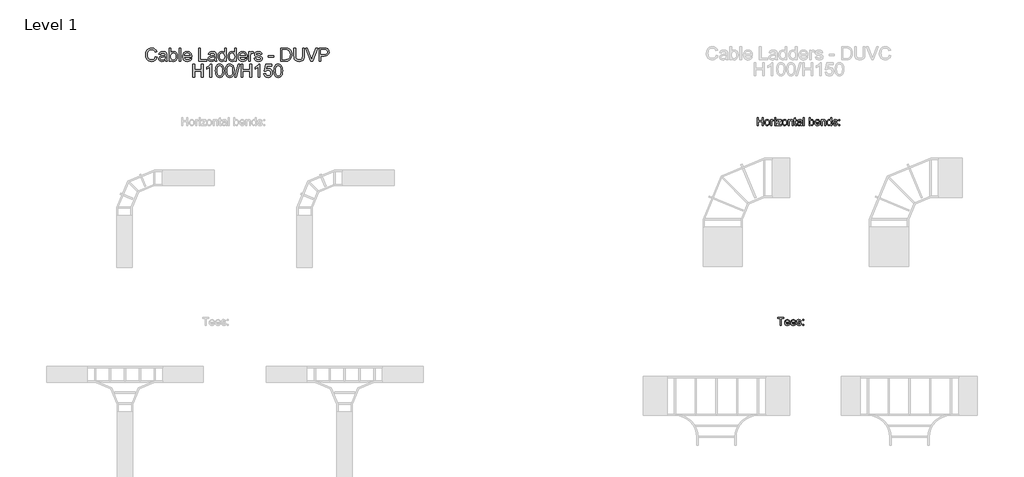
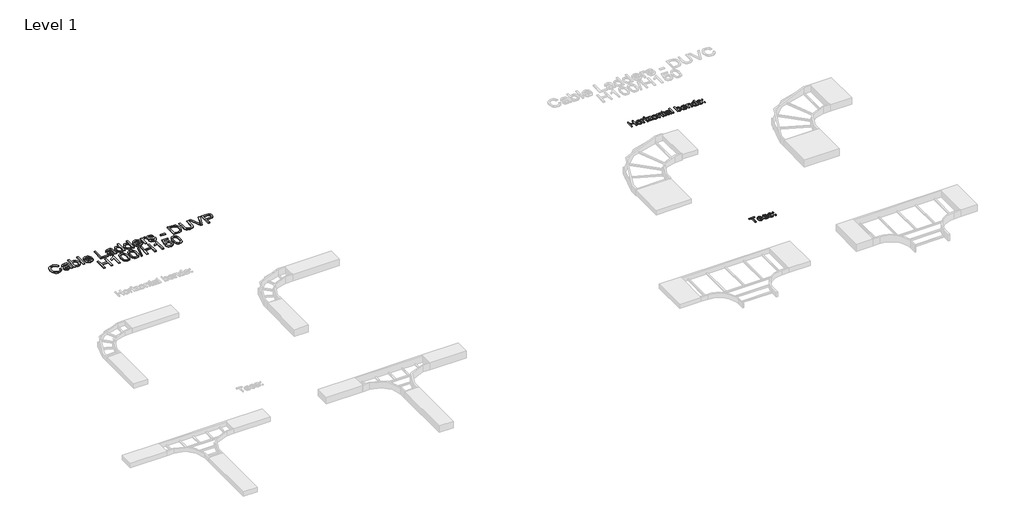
# One storey, part 101 of 106: 3 proxies.
"""IFC4 building model written with IfcOpenShell, lengths in millimetres."""

from ifc_helpers import new_model, si_unit, origin, origin_with_axes, place, context, project, spatial, polyline, outline, extrude, element, save

model = new_model("IFC4")

# Units and contexts
model_context = context("Model", 3, world=origin())
ifc_project = project(units=[si_unit("LENGTHUNIT", "METRE", prefix="MILLI")], contexts=[model_context])

# Site, building, storey
site = spatial("IfcSite", under=ifc_project)
building = spatial("IfcBuilding", under=site)
storey = spatial("IfcBuildingStorey", under=building, Name="Level 1", Elevation=0.0)

# Proxies
placement = place(None, origin())
element("IfcBuildingElementProxy", 1, Name="150mm Arial 2", ObjectType="150mm Arial 2", at=placement, inside=storey, context=model_context, shape_type="SweptSolid", body=[
    extrude(outline(polyline([(142665.8833156, 70274.2713912), (142665.8833156, 70424.9558564), (142684.7188737, 70424.9558564), (142684.7188737, 70363.7402924), (142764.7699959, 70363.7402924), (142764.7699959, 70424.9558564), (142783.605554, 70424.9558564), (142783.605554, 70274.2713912), (142764.7699959, 70274.2713912), (142764.7699959, 70344.9047343), (142684.7188737, 70344.9047343), (142684.7188737, 70274.2713912), (142665.8833156, 70274.2713912)])), origin_with_axes(), (0.0, 0.0, 1.0), 15.0),
    extrude(outline(polyline([(142809.5044465, 70329.6008433), (142813.5787396, 70356.281485), (142825.8016189, 70375.0342697), (142840.9031748, 70384.2221225), (142858.9845748, 70387.2847401), (142878.7720277, 70383.5553364), (142894.5771579, 70372.3671252), (142904.9376346, 70354.6030234), (142908.3911268, 70331.1459476), (142906.8644165, 70312.1172514), (142902.2842857, 70297.6318979), (142894.7840915, 70286.7839775), (142884.4971912, 70278.667581), (142872.2789104, 70273.6046051), (142858.9845748, 70271.9169464), (142838.9579987, 70275.6325546), (142823.1712626, 70286.779379), (142812.9211505, 70304.9159614), (142809.5044465, 70329.6008433)]), holes=[polyline([(142828.3400046, 70329.6376315), (142830.5197055, 70312.5908995), (142837.0588079, 70300.4461951), (142846.8996513, 70293.1759272), (142858.9845748, 70290.7525046), (142871.0143161, 70293.1897228), (142880.8367654, 70300.5013774), (142887.3758678, 70312.8070302), (142889.5555686, 70330.2262427), (142887.3620722, 70346.7763339), (142880.7815831, 70358.7554914), (142870.9453382, 70366.0257593), (142858.9845748, 70368.449182), (142846.8996513, 70366.0349564), (142837.0588079, 70358.7922796), (142830.5197055, 70346.6751664), (142828.3400046, 70329.6376315)])]), origin_with_axes(), (0.0, 0.0, 1.0), 15.0),
    extrude(outline(polyline([(142929.5811297, 70274.2713912), (142929.5811297, 70384.9302953), (142946.0622431, 70384.9302953), (142946.0622431, 70368.5595466), (142957.7608906, 70383.6427084), (142969.5331144, 70387.2847401), (142988.4422489, 70381.4722046), (142982.1514668, 70364.586421), (142968.907715, 70368.449182), (142958.2575312, 70364.7335738), (142951.4701084, 70354.4328779), (142948.4166879, 70332.4335346), (142948.4166879, 70274.2713912), (142929.5811297, 70274.2713912)])), origin_with_axes(), (0.0, 0.0, 1.0), 15.0),
    extrude(outline(polyline([(143000.2144728, 70406.1202983), (143000.2144728, 70424.9558564), (143019.0500309, 70424.9558564), (143019.0500309, 70406.1202983), (143000.2144728, 70406.1202983)])), origin_with_axes(), (0.0, 0.0, 1.0), 15.0),
    extrude(outline(polyline([(143000.2144728, 70274.2713912), (143000.2144728, 70384.9302953), (143019.0500309, 70384.9302953), (143019.0500309, 70274.2713912), (143000.2144728, 70274.2713912)])), origin_with_axes(), (0.0, 0.0, 1.0), 15.0),
    extrude(outline(polyline([(143035.5311443, 70274.2713912), (143035.5311443, 70292.0033034), (143100.5358929, 70366.0947372), (143081.2956645, 70366.0947372), (143040.2400339, 70366.0947372), (143040.2400339, 70384.9302953), (143127.3544903, 70384.9302953), (143127.3544903, 70368.9274285), (143069.7073817, 70303.186916), (143060.8782138, 70293.1069493), (143082.6568279, 70293.1069493), (143129.7089351, 70293.1069493), (143129.7089351, 70274.2713912), (143035.5311443, 70274.2713912)])), origin_with_axes(), (0.0, 0.0, 1.0), 15.0),
    extrude(outline(polyline([(143143.8356037, 70329.6008433), (143147.9098968, 70356.281485), (143160.1327761, 70375.0342697), (143175.234332, 70384.2221225), (143193.3157321, 70387.2847401), (143213.1031849, 70383.5553364), (143228.9083151, 70372.3671252), (143239.2687918, 70354.6030234), (143242.722284, 70331.1459476), (143241.1955737, 70312.1172514), (143236.6154429, 70297.6318979), (143229.1152487, 70286.7839775), (143218.8283484, 70278.667581), (143206.6100677, 70273.6046051), (143193.3157321, 70271.9169464), (143173.2891559, 70275.6325546), (143157.5024198, 70286.779379), (143147.2523077, 70304.9159614), (143143.8356037, 70329.6008433)]), holes=[polyline([(143162.6711619, 70329.6376315), (143164.8508627, 70312.5908995), (143171.3899651, 70300.4461951), (143181.2308085, 70293.1759272), (143193.3157321, 70290.7525046), (143205.3454733, 70293.1897228), (143215.1679226, 70300.5013774), (143221.707025, 70312.8070302), (143223.8867259, 70330.2262427), (143221.6932295, 70346.7763339), (143215.1127403, 70358.7554914), (143205.2764954, 70366.0257593), (143193.3157321, 70368.449182), (143181.2308085, 70366.0349564), (143171.3899651, 70358.7922796), (143164.8508627, 70346.6751664), (143162.6711619, 70329.6376315)])]), origin_with_axes(), (0.0, 0.0, 1.0), 15.0),
    extrude(outline(polyline([(143263.9122869, 70274.2713912), (143263.9122869, 70384.9302953), (143282.7478451, 70384.9302953), (143282.7478451, 70369.4792515), (143297.1504252, 70382.833368), (143316.8137178, 70387.2847401), (143334.6008123, 70383.6978907), (143346.7409182, 70374.2801116), (143352.3879068, 70360.4293545), (143353.3811882, 70342.2191957), (143353.3811882, 70274.2713912), (143334.54563, 70274.2713912), (143334.54563, 70339.6808099), (143332.3751262, 70356.3458643), (143324.7047866, 70365.1566381), (143311.7737345, 70368.449182), (143300.7418732, 70366.6005749), (143291.3378897, 70361.0547538), (143284.8953562, 70350.3401907), (143282.7478451, 70332.9853576), (143282.7478451, 70274.2713912), (143263.9122869, 70274.2713912)])), origin_with_axes(), (0.0, 0.0, 1.0), 15.0),
    extrude(outline(polyline([(143419.3056417, 70289.9799524), (143421.6600865, 70273.7195682), (143407.5702061, 70271.9169464), (143391.7880685, 70275.0439434), (143383.9153938, 70283.2477119), (143381.6345254, 70304.6216558), (143381.6345254, 70366.0947372), (143367.5078568, 70366.0947372), (143367.5078568, 70384.9302953), (143381.6345254, 70384.9302953), (143381.6345254, 70411.8224692), (143400.4700835, 70422.8957172), (143400.4700835, 70384.9302953), (143419.3056417, 70384.9302953), (143419.3056417, 70366.0947372), (143400.4700835, 70366.0947372), (143400.4700835, 70305.1734788), (143401.4633649, 70295.4613941), (143404.6823324, 70292.0216975), (143411.1018732, 70290.7525046), (143419.3056417, 70289.9799524)])), origin_with_axes(), (0.0, 0.0, 1.0), 15.0),
    extrude(outline(polyline([(143508.7745429, 70288.3980598), (143490.5092019, 70275.6325546), (143470.3308744, 70271.9169464), (143454.5901236, 70274.1518295), (143442.9788481, 70280.8564789), (143435.8189448, 70291.0376131), (143433.4323103, 70303.7019508), (143437.0375539, 70318.6011716), (143446.5105152, 70329.4169023), (143459.6990848, 70335.5973198), (143475.9962572, 70338.4300111), (143508.6641783, 70344.9047343), (143508.7745429, 70349.098589), (143507.4777589, 70357.5046926), (143503.5874068, 70363.0045284), (143494.8869976, 70367.0880186), (143482.7652859, 70368.449182), (143463.7089985, 70364.8255443), (143454.6223132, 70351.9680686), (143435.7867551, 70354.3225133), (143443.9353413, 70372.7166131), (143460.3428783, 70383.4955556), (143485.193307, 70387.2847401), (143508.0203848, 70383.9370139), (143520.9146488, 70375.5309104), (143526.6903961, 70362.747011), (143527.6101011, 70346.2658976), (143527.6101011, 70322.8318145), (143528.5665943, 70290.1087111), (143532.3189906, 70274.2713912), (143513.4834325, 70274.2713912), (143508.7745429, 70288.3980598)]), holes=[polyline([(143508.7745429, 70326.0691761), (143478.3874901, 70320.2934288), (143462.1822882, 70317.2400082), (143454.8430424, 70312.2736013), (143452.2678685, 70305.026326), (143457.8780689, 70294.8359947), (143474.3407882, 70290.7525046), (143493.3970755, 70295.259059), (143505.6843342, 70306.1667602), (143508.6641783, 70320.7348872), (143508.7745429, 70326.0691761)])]), origin_with_axes(), (0.0, 0.0, 1.0), 15.0),
    extrude(outline(polyline([(143553.5089935, 70274.2713912), (143553.5089935, 70424.9558564), (143572.3445517, 70424.9558564), (143572.3445517, 70274.2713912), (143553.5089935, 70274.2713912)])), origin_with_axes(), (0.0, 0.0, 1.0), 15.0),
    extrude(outline(polyline([(143678.2945663, 70274.2713912), (143659.4590082, 70274.2713912), (143659.4590082, 70424.9558564), (143678.2945663, 70424.9558564), (143678.2945663, 70369.0745813), (143691.4831358, 70382.7322004), (143707.8722787, 70387.2847401), (143726.7446251, 70383.1828559), (143741.3863285, 70371.6497553), (143750.3810433, 70353.715508), (143753.6367989, 70331.2563122), (143750.2660801, 70306.1115779), (143740.1539238, 70287.4047784), (143725.3144838, 70275.7889044), (143707.7619141, 70271.9169464), (143691.0140863, 70276.9109445), (143678.2945663, 70291.8929388), (143678.2945663, 70274.2713912)]), holes=[polyline([(143678.2945663, 70330.3733955), (143679.5821533, 70314.6648343), (143683.4449142, 70304.0330446), (143693.3133488, 70294.0726396), (143706.1432333, 70290.7525046), (143717.0141463, 70293.1989198), (143726.3031667, 70300.5381656), (143732.6767222, 70312.7242567), (143734.8012408, 70329.7112079), (143732.7640942, 70346.9464793), (143726.6526546, 70358.9946147), (143717.6533413, 70366.0855401), (143706.9525737, 70368.449182), (143696.0816608, 70366.0027667), (143686.7926404, 70358.6635209), (143680.4190848, 70346.698159), (143678.2945663, 70330.3733955)])]), origin_with_axes(), (0.0, 0.0, 1.0), 15.0),
    extrude(outline(polyline([(143852.30275, 70307.233618), (143870.7704262, 70304.8791732), (143864.1163606, 70290.9640367), (143853.4983665, 70280.5621733), (143839.1555672, 70274.0782531), (143821.327086, 70271.9169464), (143799.2265752, 70275.6463501), (143782.2212299, 70286.8345613), (143771.3779081, 70304.755013), (143767.7634675, 70328.6811383), (143771.4146963, 70353.4120054), (143782.3683827, 70371.9072727), (143799.1438017, 70383.4403733), (143820.2602282, 70387.2847401), (143840.7190657, 70383.4495703), (143857.0668219, 70371.9440609), (143867.7859835, 70353.4855818), (143871.3590374, 70328.7915029), (143871.2486728, 70323.7147313), (143786.5990257, 70323.7147313), (143789.8593799, 70309.6156539), (143797.4331504, 70299.2505787), (143808.3638442, 70292.8770231), (143821.694968, 70290.7525046), (143840.1626442, 70294.6888419), (143852.30275, 70307.233618)]), holes=[polyline([(143786.5990257, 70342.5502895), (143852.5234792, 70342.5502895), (143849.9758964, 70352.5014975), (143844.9818983, 70359.6200141), (143834.0006208, 70366.24189), (143820.1866518, 70368.449182), (143807.4901245, 70366.6879469), (143796.991692, 70361.4042417), (143789.693833, 70353.1682836), (143786.5990257, 70342.5502895)])]), origin_with_axes(), (0.0, 0.0, 1.0), 15.0),
    extrude(outline(polyline([(143890.1945955, 70274.2713912), (143890.1945955, 70384.9302953), (143909.0301537, 70384.9302953), (143909.0301537, 70369.4792515), (143923.4327338, 70382.833368), (143943.0960264, 70387.2847401), (143960.8831209, 70383.6978907), (143973.0232267, 70374.2801116), (143978.6702154, 70360.4293545), (143979.6634968, 70342.2191957), (143979.6634968, 70274.2713912), (143960.8279386, 70274.2713912), (143960.8279386, 70339.6808099), (143958.6574348, 70356.3458643), (143950.9870952, 70365.1566381), (143938.0560431, 70368.449182), (143927.0241818, 70366.6005749), (143917.6201983, 70361.0547538), (143911.1776648, 70350.3401907), (143909.0301537, 70332.9853576), (143909.0301537, 70274.2713912), (143890.1945955, 70274.2713912)])), origin_with_axes(), (0.0, 0.0, 1.0), 15.0),
    extrude(outline(polyline([(144073.8412875, 70274.2713912), (144073.8412875, 70292.0400916), (144061.3792849, 70276.9477327), (144044.1532105, 70271.9169464), (144031.9763165, 70273.7379623), (144020.829492, 70279.2010099), (144011.3933188, 70287.9244117), (144004.3483786, 70299.5264902), (143999.9613858, 70313.5381956), (143998.4990549, 70329.4904787), (144003.8885261, 70359.4728613), (144010.6207666, 70371.3646468), (144020.0385457, 70380.1110412), (144031.429092, 70385.4913154), (144044.0796341, 70387.2847401), (144061.4436643, 70382.1527863), (144073.8412875, 70368.8170639), (144073.8412875, 70424.9558564), (144092.6768457, 70424.9558564), (144092.6768457, 70274.2713912), (144073.8412875, 70274.2713912)]), holes=[polyline([(144017.3346131, 70329.5640551), (144019.4591316, 70312.5265202), (144025.8326871, 70300.4094069), (144035.0941164, 70293.1667302), (144045.8822559, 70290.7525046), (144056.6657969, 70293.0563656), (144065.6927013, 70299.9679485), (144071.804141, 70311.6160122), (144073.8412875, 70328.1293153), (144071.7673528, 70346.1831242), (144065.5455485, 70358.7003091), (144056.2887178, 70366.0119637), (144045.1097037, 70368.449182), (144034.2111996, 70366.1085328), (144025.2808642, 70359.0865852), (144019.3211758, 70347.0246543), (144017.3346131, 70329.5640551)])]), origin_with_axes(), (0.0, 0.0, 1.0), 15.0),
    extrude(outline(polyline([(144113.8668486, 70307.233618), (144132.7024067, 70309.5880627), (144135.6730539, 70301.531447), (144141.42121, 70295.6085469), (144161.3972024, 70290.7525046), (144180.6006425, 70295.2038767), (144186.8546364, 70305.6517254), (144185.2819409, 70310.4525854), (144180.5638543, 70314.1130113), (144161.1764732, 70319.4840884), (144132.8127713, 70328.6995324), (144120.4335422, 70339.4600807), (144116.2212934, 70354.6536071), (144119.6058077, 70368.6883052), (144128.8396458, 70379.4120654), (144140.8142047, 70384.9854776), (144157.0194066, 70387.2847401), (144179.9384549, 70383.5875261), (144194.5065819, 70373.5811358), (144200.9813051, 70356.6769581), (144182.1457469, 70354.3225133), (144175.0640185, 70364.7151797), (144158.4909346, 70368.449182), (144140.4647168, 70364.8807266), (144135.0568515, 70356.5665935), (144137.3009317, 70351.0851518), (144144.3274778, 70346.9280852), (144160.5510738, 70342.9181715), (144188.1974057, 70334.0522154), (144201.0364873, 70324.0090369), (144205.6901946, 70307.6382881), (144200.227147, 70289.6120704), (144184.4634035, 70276.5338655), (144161.139685, 70271.9169464), (144142.147777, 70274.1426325), (144128.2878228, 70280.8196907), (144119.0355906, 70291.8745447), (144113.8668486, 70307.233618)])), origin_with_axes(), (0.0, 0.0, 1.0), 15.0),
    extrude(outline(polyline([(144231.589087, 70366.0947372), (144231.589087, 70384.9302953), (144250.4246452, 70384.9302953), (144250.4246452, 70366.0947372), (144231.589087, 70366.0947372)])), origin_with_axes(), (0.0, 0.0, 1.0), 15.0),
    extrude(outline(polyline([(144231.589087, 70274.2713912), (144231.589087, 70293.1069493), (144250.4246452, 70293.1069493), (144250.4246452, 70274.2713912), (144231.589087, 70274.2713912)])), origin_with_axes(), (0.0, 0.0, 1.0), 15.0),
])
element("IfcBuildingElementProxy", 2, Name="150mm Arial 2", ObjectType="150mm Arial 2", at=placement, inside=storey, context=model_context, shape_type="SweptSolid", body=[
    extrude(outline(polyline([(143111.5611219, 66447.8476348), (143111.5611219, 66579.6965419), (143062.1177817, 66579.6965419), (143062.1177817, 66598.5321), (143179.8400202, 66598.5321), (143179.8400202, 66579.6965419), (143130.39668, 66579.6965419), (143130.39668, 66447.8476348), (143111.5611219, 66447.8476348)])), origin_with_axes(), (0.0, 0.0, 1.0), 15.0),
    extrude(outline(polyline([(143276.1515265, 66480.8098615), (143294.6192027, 66478.4554168), (143287.9651371, 66464.5402803), (143277.347143, 66454.1384169), (143263.0043437, 66447.6544967), (143245.1758625, 66445.49319), (143223.0753517, 66449.2225937), (143206.0700064, 66460.4108049), (143195.2266846, 66478.3312566), (143191.612244, 66502.2573819), (143195.2634728, 66526.988249), (143206.2171592, 66545.4835163), (143222.9925782, 66557.0166168), (143244.1090047, 66560.8609837), (143264.5678422, 66557.0258139), (143280.9155984, 66545.5203045), (143291.63476, 66527.0618254), (143295.2078139, 66502.3677465), (143295.0974493, 66497.2909749), (143210.4478022, 66497.2909749), (143213.7081564, 66483.1918975), (143221.2819269, 66472.8268223), (143232.2126207, 66466.4532667), (143245.5437445, 66464.3287482), (143264.0114207, 66468.2650855), (143276.1515265, 66480.8098615)]), holes=[polyline([(143210.4478022, 66516.1265331), (143276.3722557, 66516.1265331), (143273.8246729, 66526.0777411), (143268.8306748, 66533.1962577), (143257.8493973, 66539.8181336), (143244.0354283, 66542.0254255), (143231.338901, 66540.2641905), (143220.8404686, 66534.9804853), (143213.5426095, 66526.7445272), (143210.4478022, 66516.1265331)])]), origin_with_axes(), (0.0, 0.0, 1.0), 15.0),
    extrude(outline(polyline([(143391.5193202, 66480.8098615), (143409.9869964, 66478.4554168), (143403.3329308, 66464.5402803), (143392.7149367, 66454.1384169), (143378.3721374, 66447.6544967), (143360.5436562, 66445.49319), (143338.4431454, 66449.2225937), (143321.4378001, 66460.4108049), (143310.5944783, 66478.3312566), (143306.9800377, 66502.2573819), (143310.6312665, 66526.988249), (143321.5849529, 66545.4835163), (143338.3603719, 66557.0166168), (143359.4767984, 66560.8609837), (143379.9356359, 66557.0258139), (143396.2833921, 66545.5203045), (143407.0025537, 66527.0618254), (143410.5756076, 66502.3677465), (143410.465243, 66497.2909749), (143325.8155959, 66497.2909749), (143329.0759501, 66483.1918975), (143336.6497206, 66472.8268223), (143347.5804144, 66466.4532667), (143360.9115382, 66464.3287482), (143379.3792144, 66468.2650855), (143391.5193202, 66480.8098615)]), holes=[polyline([(143325.8155959, 66516.1265331), (143391.7400494, 66516.1265331), (143389.1924666, 66526.0777411), (143384.1984685, 66533.1962577), (143373.217191, 66539.8181336), (143359.403222, 66542.0254255), (143346.7066947, 66540.2641905), (143336.2082622, 66534.9804853), (143328.9104032, 66526.7445272), (143325.8155959, 66516.1265331)])]), origin_with_axes(), (0.0, 0.0, 1.0), 15.0),
    extrude(outline(polyline([(143422.3478314, 66480.8098615), (143441.1833896, 66483.1643063), (143444.1540367, 66475.1076906), (143449.9021929, 66469.1847905), (143469.8781852, 66464.3287482), (143489.0816253, 66468.7801203), (143495.3356193, 66479.227969), (143493.7629237, 66484.028829), (143489.0448371, 66487.6892549), (143469.657456, 66493.060332), (143441.2937542, 66502.275776), (143428.914525, 66513.0363243), (143424.7022762, 66528.2298507), (143428.0867905, 66542.2645488), (143437.3206286, 66552.988309), (143449.2951876, 66558.5617212), (143465.5003894, 66560.8609837), (143488.4194377, 66557.1637696), (143502.9875648, 66547.1573794), (143509.4622879, 66530.2532017), (143490.6267297, 66527.8987569), (143483.5450013, 66538.2914233), (143466.9719174, 66542.0254255), (143448.9456997, 66538.4569702), (143443.5378343, 66530.1428371), (143445.7819145, 66524.6613954), (143452.8084606, 66520.5043288), (143469.0320566, 66516.4944151), (143496.6783885, 66507.628459), (143509.5174702, 66497.5852805), (143514.1711774, 66481.2145317), (143508.7081298, 66463.188314), (143492.9443863, 66450.110109), (143469.6206678, 66445.49319), (143450.6287598, 66447.7188761), (143436.7688056, 66454.3959343), (143427.5165734, 66465.4507882), (143422.3478314, 66480.8098615)])), origin_with_axes(), (0.0, 0.0, 1.0), 15.0),
    extrude(outline(polyline([(143540.0700699, 66539.6709808), (143540.0700699, 66558.5065389), (143558.905628, 66558.5065389), (143558.905628, 66539.6709808), (143540.0700699, 66539.6709808)])), origin_with_axes(), (0.0, 0.0, 1.0), 15.0),
    extrude(outline(polyline([(143540.0700699, 66447.8476348), (143540.0700699, 66466.6831929), (143558.905628, 66466.6831929), (143558.905628, 66447.8476348), (143540.0700699, 66447.8476348)])), origin_with_axes(), (0.0, 0.0, 1.0), 15.0),
])
element("IfcBuildingElementProxy", 3, Name="250mm Arial 3", ObjectType="250mm Arial 3", at=placement, inside=storey, context=model_context, shape_type="SweptSolid", body=[
    extrude(outline(polyline([(131161.7184813, 71592.4106539), (131193.1110783, 71584.31725), (131178.6257247, 71547.7359841), (131155.8936831, 71521.01089), (131126.0339278, 71504.6631338), (131090.1654333, 71499.2138818), (131053.75278, 71503.3372258), (131024.8357223, 71515.7072579), (131002.6708321, 71535.8947824), (130986.5146811, 71563.4706036), (130976.6508451, 71595.8902044), (130973.3628998, 71630.6090677), (130977.0800408, 71667.2286547), (130988.2314638, 71698.8511778), (131006.2346889, 71724.472626), (131030.5072364, 71743.0889877), (131059.2940025, 71754.4243517), (131090.8398836, 71758.2028064), (131125.2598428, 71753.3130415), (131153.7170479, 71738.643747), (131175.3224509, 71715.0992993), (131189.1870036, 71683.584075), (131157.7944067, 71676.1038078), (131146.911231, 71698.9967978), (131132.0426671, 71714.7007605), (131113.0047738, 71723.7828472), (131089.6136103, 71726.8102095), (131062.6509257, 71723.4532863), (131040.5013639, 71713.3825166), (131023.6937553, 71697.6555613), (131012.7569301, 71677.3300811), (131006.7558551, 71654.3527848), (131004.7554967, 71630.6703814), (131007.1237371, 71601.6690174), (131014.2284581, 71576.5917281), (131026.3379071, 71556.3965394), (131043.7203314, 71542.0414774), (131064.5593136, 71533.4652284), (131087.0384363, 71530.6064787), (131113.2423643, 71534.4998965), (131135.0776935, 71546.1801498), (131151.5634054, 71565.5246114), (131161.7184813, 71592.4106539)])), origin_with_axes(), (0.0, 0.0, 1.0), 15.0),
    extrude(outline(polyline([(131350.0740629, 71526.6824041), (131335.0752074, 71513.8218627), (131319.6318278, 71505.406562), (131303.3913705, 71500.7620518), (131286.001282, 71499.2138818), (131259.7666973, 71502.938687), (131240.4145715, 71514.1131026), (131228.4813992, 71531.0816596), (131224.5036752, 71552.1888891), (131226.00586, 71565.2027147), (131230.5124144, 71577.0209238), (131246.3006834, 71595.0471415), (131268.2816326, 71605.3478374), (131295.4435866, 71610.0689897), (131349.8901219, 71620.8601949), (131350.0740629, 71627.8499528), (131347.9127561, 71641.8601254), (131341.428836, 71651.0265185), (131326.928154, 71657.8323354), (131306.7253011, 71660.100941), (131288.024633, 71658.591092), (131274.9648222, 71654.0615449), (131266.0590122, 71645.6845653), (131259.8203467, 71632.6324187), (131228.4277498, 71636.5564933), (131233.8770018, 71653.7243198), (131242.0087268, 71667.2133262), (131253.5816812, 71677.5293505), (131269.3546218, 71685.1782303), (131288.6454339, 71689.914711), (131310.772003, 71691.4935379), (131331.9941956, 71690.098652), (131348.8171327, 71685.9139943), (131361.5013973, 71679.6216794), (131370.3075726, 71671.9038217), (131379.9338181, 71650.5973228), (131381.4666598, 71623.1288005), (131381.4666598, 71584.0719953), (131383.0608151, 71529.5334895), (131389.314809, 71503.1379564), (131357.9222121, 71503.1379564), (131350.0740629, 71526.6824041)]), holes=[polyline([(131350.0740629, 71589.4675979), (131299.4289749, 71579.8413524), (131272.420305, 71574.7523181), (131260.1882287, 71566.4749732), (131255.8962721, 71554.3961811), (131258.2338556, 71545.0611754), (131265.2466061, 71537.4122956), (131276.7812395, 71532.3079329), (131292.6844716, 71530.6064787), (131309.5457297, 71532.4842097), (131324.4449505, 71538.1174028), (131336.5237427, 71546.4177403), (131344.9237149, 71556.2969047), (131348.6485201, 71566.4749732), (131349.8901219, 71580.5771164), (131350.0740629, 71589.4675979)])]), origin_with_axes(), (0.0, 0.0, 1.0), 15.0),
    extrude(outline(polyline([(131456.0240775, 71503.1379564), (131424.6314806, 71503.1379564), (131424.6314806, 71754.2787318), (131456.0240775, 71754.2787318), (131456.0240775, 71661.1432733), (131466.347766, 71674.4215141), (131478.0050267, 71683.9059718), (131490.9958596, 71689.5966464), (131505.3202648, 71691.4935379), (131521.4917442, 71689.7844195), (131536.7741754, 71684.6570642), (131550.2938387, 71676.4333687), (131561.1770144, 71665.4352299), (131576.1682057, 71635.5448178), (131581.5944652, 71598.1128248), (131575.9766005, 71556.2049342), (131568.9542697, 71539.2746982), (131559.1230066, 71525.0269351), (131547.322042, 71513.7337243), (131534.3906067, 71505.6671451), (131520.3287006, 71500.8271976), (131505.1363238, 71499.2138818), (131490.3405698, 71501.2947143), (131477.2232774, 71507.5372119), (131465.7844467, 71517.9413746), (131456.0240775, 71532.5072023), (131456.0240775, 71503.1379564)]), holes=[polyline([(131456.0240775, 71596.6412968), (131458.1700558, 71570.4603615), (131464.6079907, 71552.7407121), (131481.0553816, 71536.140037), (131502.4385225, 71530.6064787), (131520.5567108, 71534.6838375), (131536.0384114, 71546.9159138), (131546.661004, 71567.2260656), (131550.2018682, 71595.5376509), (131546.806624, 71624.2631033), (131536.6208912, 71644.3433289), (131521.6220357, 71656.161538), (131503.7874232, 71660.100941), (131485.6692349, 71656.0235822), (131470.1875343, 71643.7915059), (131459.5649417, 71623.8492361), (131456.0240775, 71596.6412968)])]), origin_with_axes(), (0.0, 0.0, 1.0), 15.0),
    extrude(outline(polyline([(131616.9111367, 71503.1379564), (131616.9111367, 71754.2787318), (131648.3037336, 71754.2787318), (131648.3037336, 71503.1379564), (131616.9111367, 71503.1379564)])), origin_with_axes(), (0.0, 0.0, 1.0), 15.0),
    extrude(outline(polyline([(131824.5192093, 71558.075001), (131855.2986696, 71554.1509264), (131844.2085603, 71530.9590323), (131826.5119034, 71513.6225933), (131802.607238, 71502.8160596), (131772.8931027, 71499.2138818), (131753.4145174, 71500.7678), (131736.0589179, 71505.4295547), (131720.826304, 71513.1991458), (131707.7166758, 71524.0765733), (131697.1745574, 71537.759101), (131689.6444728, 71553.9439928), (131685.1264221, 71572.6312485), (131683.6204052, 71593.8208682), (131685.1417505, 71615.7290074), (131689.7057865, 71635.0389801), (131697.3125132, 71651.7507861), (131707.9619305, 71665.8644256), (131721.0370697, 71677.0771622), (131735.9209621, 71685.0862598), (131752.6136077, 71689.8917184), (131771.1150063, 71691.4935379), (131789.0205128, 71689.8955505), (131805.2130688, 71685.1015883), (131819.6926742, 71677.1116512), (131832.459329, 71665.9257393), (131842.8807362, 71651.8427566), (131850.3245984, 71635.1616074), (131854.7909158, 71615.8822916), (131856.2796882, 71594.0048092), (131856.0957472, 71585.5435233), (131715.0130021, 71585.5435233), (131720.4469257, 71562.0450609), (131733.0698767, 71544.7699355), (131751.2876996, 71534.1473429), (131773.5062393, 71530.6064787), (131790.2142133, 71532.2466193), (131804.2856996, 71537.1670409), (131815.7206983, 71545.6743121), (131824.5192093, 71558.075001)]), holes=[polyline([(131715.0130021, 71616.9361202), (131824.8870913, 71616.9361202), (131820.6411199, 71633.5214669), (131812.3177898, 71645.3856612), (131794.0156605, 71656.4221211), (131770.992379, 71660.100941), (131749.8315001, 71657.1655493), (131732.3341127, 71648.359374), (131720.1710142, 71634.632777), (131715.0130021, 71616.9361202)])]), origin_with_axes(), (0.0, 0.0, 1.0), 15.0),
    extrude(outline(polyline([(131989.6982251, 71503.1379564), (131989.6982251, 71754.2787318), (132021.0908221, 71754.2787318), (132021.0908221, 71534.5305533), (132146.6612098, 71534.5305533), (132146.6612098, 71503.1379564), (131989.6982251, 71503.1379564)])), origin_with_axes(), (0.0, 0.0, 1.0), 15.0),
    extrude(outline(polyline([(132295.7760451, 71526.6824041), (132280.7771896, 71513.8218627), (132265.33381, 71505.406562), (132249.0933528, 71500.7620518), (132231.7032643, 71499.2138818), (132205.4686795, 71502.938687), (132186.1165537, 71514.1131026), (132174.1833815, 71531.0816596), (132170.2056574, 71552.1888891), (132171.7078423, 71565.2027147), (132176.2143967, 71577.0209238), (132192.0026657, 71595.0471415), (132213.9836149, 71605.3478374), (132241.1455688, 71610.0689897), (132295.5921041, 71620.8601949), (132295.7760451, 71627.8499528), (132293.6147384, 71641.8601254), (132287.1308182, 71651.0265185), (132272.6301363, 71657.8323354), (132252.4272834, 71660.100941), (132233.7266153, 71658.591092), (132220.6668044, 71654.0615449), (132211.7609945, 71645.6845653), (132205.522329, 71632.6324187), (132174.1297321, 71636.5564933), (132179.5789841, 71653.7243198), (132187.710709, 71667.2133262), (132199.2836635, 71677.5293505), (132215.056604, 71685.1782303), (132234.3474161, 71689.914711), (132256.4739853, 71691.4935379), (132277.6961779, 71690.098652), (132294.519115, 71685.9139943), (132307.2033796, 71679.6216794), (132316.0095549, 71671.9038217), (132325.6358004, 71650.5973228), (132327.1686421, 71623.1288005), (132327.1686421, 71584.0719953), (132328.7627974, 71529.5334895), (132335.0167913, 71503.1379564), (132303.6241944, 71503.1379564), (132295.7760451, 71526.6824041)]), holes=[polyline([(132295.7760451, 71589.4675979), (132245.1309571, 71579.8413524), (132218.1222873, 71574.7523181), (132205.890211, 71566.4749732), (132201.5982544, 71554.3961811), (132203.9358379, 71545.0611754), (132210.9485884, 71537.4122956), (132222.4832218, 71532.3079329), (132238.3864539, 71530.6064787), (132255.247712, 71532.4842097), (132270.1469328, 71538.1174028), (132282.225725, 71546.4177403), (132290.6256972, 71556.2969047), (132294.3505024, 71566.4749732), (132295.5921041, 71580.5771164), (132295.7760451, 71589.4675979)])]), origin_with_axes(), (0.0, 0.0, 1.0), 15.0),
    extrude(outline(polyline([(132484.1316267, 71503.1379564), (132484.1316267, 71532.752457), (132474.7391395, 71518.0793303), (132463.3616223, 71507.5985256), (132449.9990753, 71501.3100427), (132434.6514983, 71499.2138818), (132414.3566749, 71502.2489082), (132395.7786342, 71511.3539876), (132380.0516789, 71525.8929906), (132368.3101118, 71545.229788), (132360.9984572, 71568.5826305), (132358.561239, 71595.1697689), (132360.806852, 71621.4273463), (132367.543691, 71645.1404065), (132378.7640919, 71664.960049), (132394.4603903, 71679.5373731), (132413.4446341, 71688.5044967), (132434.528871, 71691.4935379), (132449.8879443, 71689.3552238), (132463.4689213, 71682.9402815), (132474.980562, 71673.1071024), (132484.1316267, 71660.7140777), (132484.1316267, 71754.2787318), (132515.5242236, 71754.2787318), (132515.5242236, 71503.1379564), (132484.1316267, 71503.1379564)]), holes=[polyline([(132389.9538359, 71595.2923962), (132393.4947001, 71566.8965047), (132404.1172927, 71546.701316), (132419.5530081, 71534.630188), (132437.5332406, 71530.6064787), (132455.5058089, 71534.446247), (132470.5506497, 71545.965552), (132480.7363824, 71565.3789915), (132484.1316267, 71592.9011632), (132480.6750687, 71622.9908447), (132470.305395, 71643.8528196), (132454.8773438, 71656.0389106), (132436.2456536, 71660.100941), (132418.0814801, 71656.199859), (132403.1975877, 71644.496613), (132393.2647739, 71624.3933948), (132389.9538359, 71595.2923962)])]), origin_with_axes(), (0.0, 0.0, 1.0), 15.0),
    extrude(outline(polyline([(132676.4112828, 71503.1379564), (132676.4112828, 71532.752457), (132667.0187956, 71518.0793303), (132655.6412785, 71507.5985256), (132642.2787314, 71501.3100427), (132626.9311545, 71499.2138818), (132606.6363311, 71502.2489082), (132588.0582903, 71511.3539876), (132572.331335, 71525.8929906), (132560.589768, 71545.229788), (132553.2781133, 71568.5826305), (132550.8408951, 71595.1697689), (132553.0865081, 71621.4273463), (132559.8233472, 71645.1404065), (132571.043748, 71664.960049), (132586.7400465, 71679.5373731), (132605.7242903, 71688.5044967), (132626.8085271, 71691.4935379), (132642.1676004, 71689.3552238), (132655.7485774, 71682.9402815), (132667.2602182, 71673.1071024), (132676.4112828, 71660.7140777), (132676.4112828, 71754.2787318), (132707.8038797, 71754.2787318), (132707.8038797, 71503.1379564), (132676.4112828, 71503.1379564)]), holes=[polyline([(132582.233492, 71595.2923962), (132585.7743562, 71566.8965047), (132596.3969489, 71546.701316), (132611.8326642, 71534.630188), (132629.8128968, 71530.6064787), (132647.7854651, 71534.446247), (132662.8303058, 71545.965552), (132673.0160386, 71565.3789915), (132676.4112828, 71592.9011632), (132672.9547249, 71622.9908447), (132662.5850512, 71643.8528196), (132647.157, 71656.0389106), (132628.5253098, 71660.100941), (132610.3611363, 71656.199859), (132595.4772439, 71644.496613), (132585.54443, 71624.3933948), (132582.233492, 71595.2923962)])]), origin_with_axes(), (0.0, 0.0, 1.0), 15.0),
    extrude(outline(polyline([(132884.0193554, 71558.075001), (132914.7988157, 71554.1509264), (132903.7087064, 71530.9590323), (132886.0120496, 71513.6225933), (132862.1073841, 71502.8160596), (132832.3932488, 71499.2138818), (132812.9146635, 71500.7678), (132795.559064, 71505.4295547), (132780.3264501, 71513.1991458), (132767.2168219, 71524.0765733), (132756.6747035, 71537.759101), (132749.1446189, 71553.9439928), (132744.6265682, 71572.6312485), (132743.1205513, 71593.8208682), (132744.6418966, 71615.7290074), (132749.2059326, 71635.0389801), (132756.8126593, 71651.7507861), (132767.4620766, 71665.8644256), (132780.5372159, 71677.0771622), (132795.4211082, 71685.0862598), (132812.1137538, 71689.8917184), (132830.6151525, 71691.4935379), (132848.5206589, 71689.8955505), (132864.7132149, 71685.1015883), (132879.1928203, 71677.1116512), (132891.9594751, 71665.9257393), (132902.3808823, 71651.8427566), (132909.8247445, 71635.1616074), (132914.2910619, 71615.8822916), (132915.7798343, 71594.0048092), (132915.5958933, 71585.5435233), (132774.5131482, 71585.5435233), (132779.9470718, 71562.0450609), (132792.5700228, 71544.7699355), (132810.7878458, 71534.1473429), (132833.0063854, 71530.6064787), (132849.7143594, 71532.2466193), (132863.7858457, 71537.1670409), (132875.2208444, 71545.6743121), (132884.0193554, 71558.075001)]), holes=[polyline([(132774.5131482, 71616.9361202), (132884.3872374, 71616.9361202), (132880.1412661, 71633.5214669), (132871.8179359, 71645.3856612), (132853.5158067, 71656.4221211), (132830.4925251, 71660.100941), (132809.3316462, 71657.1655493), (132791.8342588, 71648.359374), (132779.6711603, 71634.632777), (132774.5131482, 71616.9361202)])]), origin_with_axes(), (0.0, 0.0, 1.0), 15.0),
    extrude(outline(polyline([(132947.1724313, 71503.1379564), (132947.1724313, 71687.5694633), (132974.6409536, 71687.5694633), (132974.6409536, 71660.284882), (132984.7883653, 71676.1038078), (132994.1386993, 71685.423485), (133013.7590724, 71691.4935379), (133029.3940572, 71689.0716481), (133045.2742966, 71681.8059787), (133034.7896598, 71653.6630061), (133012.7167401, 71660.100941), (133003.3434134, 71658.5527709), (132994.9664338, 71653.9082608), (132983.6540624, 71636.7404343), (132978.5650282, 71600.0748621), (132978.5650282, 71503.1379564), (132947.1724313, 71503.1379564)])), origin_with_axes(), (0.0, 0.0, 1.0), 15.0),
    extrude(outline(polyline([(133053.1224459, 71558.075001), (133084.5150428, 71561.9990756), (133089.4661213, 71548.5713828), (133099.0463816, 71538.6998826), (133113.3171373, 71532.6298297), (133132.3397022, 71530.6064787), (133151.1323407, 71532.4612171), (133164.3454357, 71538.0254323), (133172.1629281, 71546.0881793), (133174.7687589, 71555.4385134), (133172.1475997, 71563.4399468), (133164.2841221, 71569.5406565), (133131.9718202, 71578.4924517), (133084.6989838, 71593.851525), (133072.7351547, 71601.5693827), (133064.0669352, 71611.7857723), (133058.8016242, 71623.8492361), (133057.0465205, 71637.1083163), (133062.6873777, 71660.4994798), (133078.0771079, 71678.3724134), (133098.0347061, 71687.6614338), (133125.0433759, 71691.4935379), (133145.4761551, 71689.9530321), (133163.2417898, 71685.3315145), (133177.5278739, 71678.0811735), (133187.5220014, 71668.6541974), (133194.1438774, 71656.3531432), (133198.3132066, 71640.4805679), (133166.9206097, 71636.5564933), (133162.9582141, 71646.4356577), (133155.117729, 71653.8776039), (133143.3225126, 71658.5451067), (133127.4959226, 71660.100941), (133109.4697048, 71658.6140846), (133097.4522263, 71654.1535154), (133090.6923946, 71647.7155805), (133088.4391174, 71640.2966269), (133092.179251, 71631.1608907), (133103.8901612, 71624.2324465), (133130.9294878, 71617.5492569), (133177.0067077, 71602.7726634), (133189.1774704, 71595.7062634), (133198.4051771, 71586.0340326), (133204.2223112, 71573.7253142), (133206.1613559, 71558.7494513), (133203.885086, 71543.2677507), (133197.0562765, 71528.7057551), (133185.9355103, 71516.2054314), (133170.7833707, 71506.9087468), (133152.4812414, 71501.137598), (133131.9105065, 71499.2138818), (133100.2573265, 71502.9233586), (133077.1574029, 71514.0517889), (133061.7370159, 71532.4765455), (133053.1224459, 71558.075001)])), origin_with_axes(), (0.0, 0.0, 1.0), 15.0),
    extrude(outline(polyline([(133323.8835943, 71577.6953741), (133323.8835943, 71609.087971), (133421.9854597, 71609.087971), (133421.9854597, 71577.6953741), (133323.8835943, 71577.6953741)])), origin_with_axes(), (0.0, 0.0, 1.0), 15.0),
    extrude(outline(polyline([(133559.3280712, 71503.1379564), (133559.3280712, 71754.2787318), (133645.9642811, 71754.2787318), (133690.7845708, 71750.6612255), (133710.8034827, 71743.686796), (133727.6953977, 71732.6963214), (133745.0624935, 71713.5664576), (133757.4325256, 71689.7767553), (133764.8361508, 71661.7870668), (133767.3040258, 71630.0572447), (133765.6332284, 71603.1022244), (133760.6208363, 71579.3814999), (133752.9872849, 71559.1863112), (133743.4530098, 71542.8078982), (133720.5216988, 71520.0298713), (133690.5086593, 71507.429913), (133650.1336104, 71503.1379564), (133559.3280712, 71503.1379564)]), holes=[polyline([(133590.7206682, 71534.5305533), (133646.2708494, 71534.5305533), (133686.6765552, 71539.0677646), (133709.9757483, 71551.8823208), (133720.8819166, 71565.470962), (133729.0749552, 71583.0603198), (133734.2023105, 71604.7270365), (133735.9114289, 71630.5477541), (133732.5621699, 71664.7607796), (133722.5143929, 71690.0220099), (133707.6688216, 71707.3737774), (133689.9261795, 71717.8584142), (133671.8693049, 71721.6292047), (133645.4124581, 71722.8861348), (133590.7206682, 71722.8861348), (133590.7206682, 71534.5305533)])]), origin_with_axes(), (0.0, 0.0, 1.0), 15.0),
    extrude(outline(polyline([(133975.2799804, 71754.2787318), (134006.6725774, 71754.2787318), (134006.6725774, 71609.3945393), (134004.5419275, 71575.4650895), (133998.1499778, 71549.3378036), (133986.2091414, 71529.180936), (133967.4318312, 71513.1627408), (133941.772062, 71502.7010965), (133909.1838486, 71499.2138818), (133877.3084066, 71502.2489082), (133851.8249142, 71511.3539876), (133832.7257073, 71526.2148874), (133820.0031216, 71546.517375), (133812.8524154, 71573.7483068), (133810.4688466, 71609.3945393), (133810.4688466, 71754.2787318), (133841.8614435, 71754.2787318), (133841.8614435, 71610.4981853), (133843.4096136, 71582.2862348), (133848.0541238, 71562.6428691), (133856.4694244, 71549.0388995), (133869.3299658, 71538.9451373), (133886.0992534, 71532.6911433), (133906.2407927, 71530.6064787), (133938.1698842, 71534.7298227), (133959.399741, 71547.0998548), (133966.3473457, 71557.2472665), (133971.3099206, 71571.1961255), (133975.2799804, 71610.4981853), (133975.2799804, 71754.2787318)])), origin_with_axes(), (0.0, 0.0, 1.0), 15.0),
    extrude(outline(polyline([(134135.737844, 71503.1379564), (134035.8578823, 71754.2787318), (134069.4577712, 71754.2787318), (134136.3509807, 71573.3421038), (134149.9013008, 71532.568516), (134163.26768, 71573.3421038), (134230.3448304, 71754.2787318), (134263.8834057, 71754.2787318), (134168.1114596, 71503.1379564), (134135.737844, 71503.1379564)])), origin_with_axes(), (0.0, 0.0, 1.0), 15.0),
    extrude(outline(polyline([(134293.1300243, 71503.1379564), (134293.1300243, 71754.2787318), (134386.2041691, 71754.2787318), (134423.7281326, 71751.8874988), (134440.4590991, 71747.4192654), (134454.2316813, 71740.1459318), (134465.3217906, 71729.737937), (134474.0053386, 71715.8657201), (134479.615539, 71699.5026355), (134481.4856058, 71681.6220377), (134476.4348926, 71652.0228655), (134461.2827529, 71627.3594434), (134449.1483952, 71617.6488916), (134432.9481751, 71610.7127832), (134412.6820924, 71606.5511181), (134388.3501474, 71605.1638964), (134324.5226212, 71605.1638964), (134324.5226212, 71503.1379564), (134293.1300243, 71503.1379564)]), holes=[polyline([(134324.5226212, 71636.5564933), (134390.1895573, 71636.5564933), (134418.0259616, 71639.4382356), (134436.4200614, 71648.0834625), (134446.674772, 71661.9556794), (134450.0930089, 71680.5183917), (134448.0773221, 71694.6205349), (134442.0302618, 71706.5153861), (134432.7029204, 71715.4671813), (134420.8463903, 71720.7401565), (134389.4537933, 71722.8861348), (134324.5226212, 71722.8861348), (134324.5226212, 71636.5564933)])]), origin_with_axes(), (0.0, 0.0, 1.0), 15.0),
    extrude(outline(polyline([(131877.8620986, 71198.2009118), (131877.8620986, 71449.3416872), (131909.2546955, 71449.3416872), (131909.2546955, 71347.3157472), (132042.6732324, 71347.3157472), (132042.6732324, 71449.3416872), (132074.0658294, 71449.3416872), (132074.0658294, 71198.2009118), (132042.6732324, 71198.2009118), (132042.6732324, 71315.9231502), (131909.2546955, 71315.9231502), (131909.2546955, 71198.2009118), (131877.8620986, 71198.2009118)])), origin_with_axes(), (0.0, 0.0, 1.0), 15.0),
    extrude(outline(polyline([(132234.9528886, 71198.2009118), (132203.5602917, 71198.2009118), (132203.5602917, 71393.9141332), (132173.8231637, 71372.7302617), (132140.7750978, 71356.880679), (132140.7750978, 71386.5564933), (132165.4308557, 71399.9688577), (132186.7910041, 71415.9257393), (132203.6292695, 71432.8942963), (132214.7193789, 71449.3416872), (132234.9528886, 71449.3416872), (132234.9528886, 71198.2009118)])), origin_with_axes(), (0.0, 0.0, 1.0), 15.0),
    extrude(outline(polyline([(132309.5103063, 71321.7479485), (132311.817233, 71361.9467207), (132318.738013, 71394.0061037), (132330.2036685, 71418.4166069), (132346.1452216, 71435.6687397), (132366.6776355, 71445.9234503), (132391.9158732, 71449.3416872), (132411.2603348, 71447.3183362), (132428.5814454, 71441.2482833), (132443.0667989, 71431.3691189), (132453.9039894, 71417.9184334), (132468.6192692, 71380.7623519), (132472.8958974, 71355.0489333), (132474.3214401, 71321.7479485), (132472.0375061, 71281.7791026), (132465.1857039, 71249.7963616), (132453.7890263, 71225.3628658), (132437.8704658, 71208.0417552), (132417.2920667, 71197.7180667), (132391.9158732, 71194.2768372), (132374.6254194, 71195.7713578), (132359.297003, 71200.2549196), (132345.9306238, 71207.7275226), (132334.526282, 71218.1891669), (132323.5817926, 71237.1006007), (132315.7643002, 71260.6642089), (132311.0738048, 71288.8799915), (132309.5103063, 71321.7479485)]), holes=[polyline([(132340.9029032, 71321.8092622), (132344.5817232, 71272.4287685), (132349.1802481, 71255.5387696), (132355.618183, 71243.848936), (132372.0502455, 71230.2143096), (132391.9158732, 71225.6694341), (132411.7815009, 71230.229638), (132428.2135634, 71243.9102497), (132434.6514983, 71255.6192438), (132439.2500232, 71272.5054106), (132442.9288432, 71321.8092622), (132439.3726506, 71370.0784456), (132434.9274098, 71386.912879), (132428.7040727, 71398.8805402), (132412.3026671, 71413.1819527), (132391.5479912, 71417.9490902), (132371.8969613, 71413.7491041), (132356.1086923, 71401.1491458), (132349.4561596, 71388.1199918), (132344.7043505, 71370.5536265), (132340.9029032, 71321.8092622)])]), origin_with_axes(), (0.0, 0.0, 1.0), 15.0),
    extrude(outline(polyline([(132501.7899624, 71321.7479485), (132504.0968891, 71361.9467207), (132511.0176691, 71394.0061037), (132522.4833247, 71418.4166069), (132538.4248778, 71435.6687397), (132558.9572916, 71445.9234503), (132584.1955293, 71449.3416872), (132603.5399909, 71447.3183362), (132620.8611015, 71441.2482833), (132635.3464551, 71431.3691189), (132646.1836455, 71417.9184334), (132660.8989253, 71380.7623519), (132665.1755535, 71355.0489333), (132666.6010963, 71321.7479485), (132664.3171622, 71281.7791026), (132657.4653601, 71249.7963616), (132646.0686824, 71225.3628658), (132630.1501219, 71208.0417552), (132609.5717228, 71197.7180667), (132584.1955293, 71194.2768372), (132566.9050756, 71195.7713578), (132551.5766591, 71200.2549196), (132538.21028, 71207.7275226), (132526.8059381, 71218.1891669), (132515.8614487, 71237.1006007), (132508.0439563, 71260.6642089), (132503.3534609, 71288.8799915), (132501.7899624, 71321.7479485)]), holes=[polyline([(132533.1825594, 71321.8092622), (132536.8613793, 71272.4287685), (132541.4599042, 71255.5387696), (132547.8978392, 71243.848936), (132564.3299016, 71230.2143096), (132584.1955293, 71225.6694341), (132604.0611571, 71230.229638), (132620.4932195, 71243.9102497), (132626.9311545, 71255.6192438), (132631.5296794, 71272.5054106), (132635.2084993, 71321.8092622), (132631.6523067, 71370.0784456), (132627.207066, 71386.912879), (132620.9837289, 71398.8805402), (132604.5823232, 71413.1819527), (132583.8276474, 71417.9490902), (132564.1766174, 71413.7491041), (132548.3883485, 71401.1491458), (132541.7358157, 71388.1199918), (132536.9840066, 71370.5536265), (132533.1825594, 71321.8092622)])]), origin_with_axes(), (0.0, 0.0, 1.0), 15.0),
    extrude(outline(polyline([(132678.3733201, 71198.2009118), (132749.0066632, 71449.3416872), (132777.4562041, 71449.3416872), (132706.7615474, 71198.2009118), (132678.3733201, 71198.2009118)])), origin_with_axes(), (0.0, 0.0, 1.0), 15.0),
    extrude(outline(polyline([(132803.9437078, 71198.2009118), (132803.9437078, 71449.3416872), (132835.3363047, 71449.3416872), (132835.3363047, 71347.3157472), (132968.7548416, 71347.3157472), (132968.7548416, 71449.3416872), (133000.1474386, 71449.3416872), (133000.1474386, 71198.2009118), (132968.7548416, 71198.2009118), (132968.7548416, 71315.9231502), (132835.3363047, 71315.9231502), (132835.3363047, 71198.2009118), (132803.9437078, 71198.2009118)])), origin_with_axes(), (0.0, 0.0, 1.0), 15.0),
    extrude(outline(polyline([(133161.0344978, 71198.2009118), (133129.6419009, 71198.2009118), (133129.6419009, 71393.9141332), (133099.9047729, 71372.7302617), (133066.856707, 71356.880679), (133066.856707, 71386.5564933), (133091.5124649, 71399.9688577), (133112.8726133, 71415.9257393), (133129.7108787, 71432.8942963), (133140.8009881, 71449.3416872), (133161.0344978, 71449.3416872), (133161.0344978, 71198.2009118)])), origin_with_axes(), (0.0, 0.0, 1.0), 15.0),
    extrude(outline(polyline([(133235.5919155, 71264.9101802), (133266.9845124, 71268.8342549), (133272.747997, 71249.9879668), (133282.8034382, 71236.4912961), (133297.1048508, 71228.3748996), (133315.6062494, 71225.6694341), (133338.1083648, 71229.4325603), (133354.9696229, 71240.7219391), (133365.500245, 71258.2346549), (133369.0104524, 71280.6677924), (133365.7225071, 71301.7903503), (133355.8586711, 71317.9465012), (133339.3423023, 71328.2012118), (133316.0967588, 71331.6194487), (133300.867977, 71330.2552196), (133288.5362659, 71326.1625324), (133270.908587, 71311.9990756), (133239.5159901, 71315.9231502), (133266.9845124, 71445.4176125), (133388.6308255, 71445.4176125), (133388.6308255, 71414.0250156), (133292.3683701, 71414.0250156), (133278.8793636, 71344.8632005), (133301.3048369, 71358.4748343), (133324.8032993, 71363.0120456), (133354.1418884, 71357.3865168), (133378.5140706, 71340.5099303), (133394.9308046, 71314.7888474), (133400.4030493, 71282.6298297), (133395.4826276, 71251.2372328), (133380.7213626, 71224.3818471), (133367.6768802, 71211.2109053), (133352.4557626, 71201.8030897), (133335.0580099, 71196.1584003), (133315.4836221, 71194.2768372), (133284.6505124, 71199.1129526), (133260.086725, 71213.6212987), (133243.2484595, 71236.1157499), (133235.5919155, 71264.9101802)])), origin_with_axes(), (0.0, 0.0, 1.0), 15.0),
    extrude(outline(polyline([(133427.8715716, 71321.7479485), (133430.1784983, 71361.9467207), (133437.0992783, 71394.0061037), (133448.5649338, 71418.4166069), (133464.506487, 71435.6687397), (133485.0389008, 71445.9234503), (133510.2771385, 71449.3416872), (133529.6216001, 71447.3183362), (133546.9427107, 71441.2482833), (133561.4280643, 71431.3691189), (133572.2652547, 71417.9184334), (133586.9805345, 71380.7623519), (133591.2571627, 71355.0489333), (133592.6827055, 71321.7479485), (133590.3987714, 71281.7791026), (133583.5469692, 71249.7963616), (133572.1502916, 71225.3628658), (133556.2317311, 71208.0417552), (133535.653332, 71197.7180667), (133510.2771385, 71194.2768372), (133492.9866848, 71195.7713578), (133477.6582683, 71200.2549196), (133464.2918891, 71207.7275226), (133452.8875473, 71218.1891669), (133441.9430579, 71237.1006007), (133434.1255655, 71260.6642089), (133429.4350701, 71288.8799915), (133427.8715716, 71321.7479485)]), holes=[polyline([(133459.2641685, 71321.8092622), (133462.9429885, 71272.4287685), (133467.5415134, 71255.5387696), (133473.9794483, 71243.848936), (133490.4115108, 71230.2143096), (133510.2771385, 71225.6694341), (133530.1427663, 71230.229638), (133546.5748287, 71243.9102497), (133553.0127636, 71255.6192438), (133557.6112886, 71272.5054106), (133561.2901085, 71321.8092622), (133557.7339159, 71370.0784456), (133553.2886751, 71386.912879), (133547.0653381, 71398.8805402), (133530.6639324, 71413.1819527), (133509.9092565, 71417.9490902), (133490.2582266, 71413.7491041), (133474.4699577, 71401.1491458), (133467.8174249, 71388.1199918), (133463.0656158, 71370.5536265), (133459.2641685, 71321.8092622)])]), origin_with_axes(), (0.0, 0.0, 1.0), 15.0),
])

save(model, "model.ifc")
